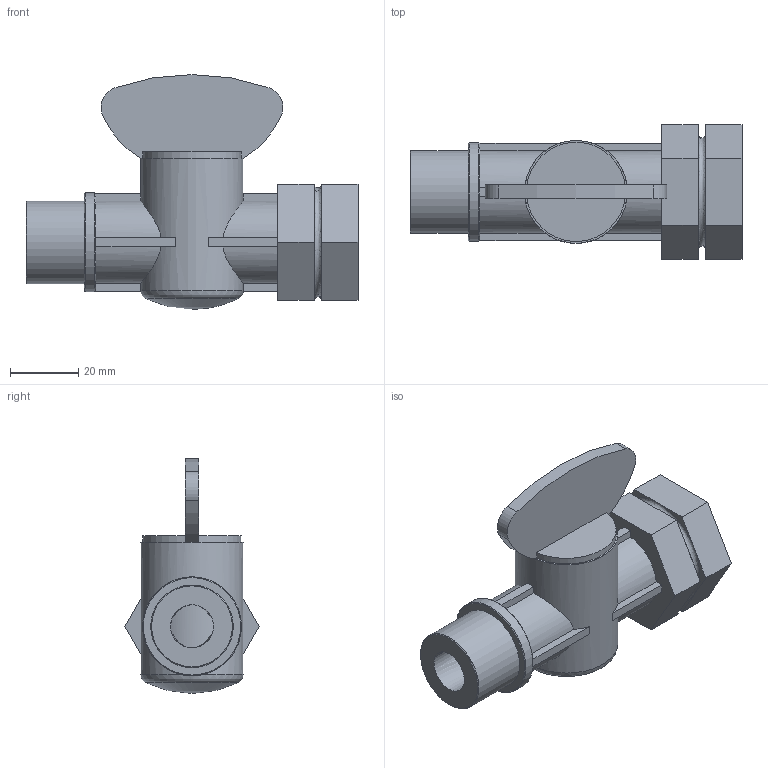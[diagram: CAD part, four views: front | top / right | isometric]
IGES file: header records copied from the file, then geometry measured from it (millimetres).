
Global section: file name: 03012077.ipt; native system: Autodesk Inventor 2015; preprocessor: unknown; author: KIM; date: 20170618.093038; units: millimetre
Bounding box: 97 x 39.26 x 68.6 mm (x, y, z)
Volume: 64654.5 mm3; surface area: 19857.8 mm2
Topology: 1 solids, 1 shells, 104 faces, 261 edges, 163 vertices
Faces by surface type: plane 75, cylinder 20, revolution 5, cone 3, sphere 1
Full cylindrical faces by diameter (mm): 24.117 x1, 28.94 x1, 30 x1
